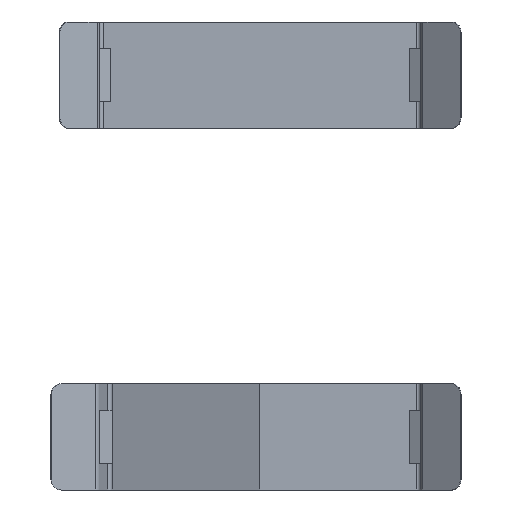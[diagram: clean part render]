
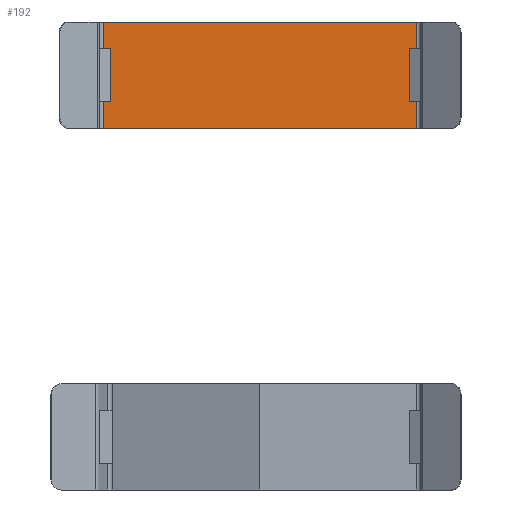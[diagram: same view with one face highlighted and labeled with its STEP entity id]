
A CAD part, front view. The second image highlights one B-rep face of the part: STEP entity #192.
In plain terms, the highlighted planar face has unit normal (0, -1, 0).
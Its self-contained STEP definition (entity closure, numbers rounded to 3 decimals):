
#192=ADVANCED_FACE('',(#340),#268,.T.);
#268=PLANE('',#1867);
#340=FACE_OUTER_BOUND('',#430,.T.);
#430=EDGE_LOOP('',(#734,#735,#736,#737));
#734=ORIENTED_EDGE('',*,*,#1270,.F.);
#735=ORIENTED_EDGE('',*,*,#1271,.T.);
#736=ORIENTED_EDGE('',*,*,#1272,.T.);
#737=ORIENTED_EDGE('',*,*,#1273,.F.);
#1062=VERTEX_POINT('',#2690);
#1063=VERTEX_POINT('',#2691);
#1064=VERTEX_POINT('',#2693);
#1065=VERTEX_POINT('',#2695);
#1270=EDGE_CURVE('',#1062,#1063,#1492,.T.);
#1271=EDGE_CURVE('',#1062,#1064,#1493,.T.);
#1272=EDGE_CURVE('',#1064,#1065,#1494,.T.);
#1273=EDGE_CURVE('',#1063,#1065,#1495,.T.);
#1492=LINE('',#2689,#1686);
#1493=LINE('',#2692,#1687);
#1494=LINE('',#2694,#1688);
#1495=LINE('',#2696,#1689);
#1686=VECTOR('',#2191,1.);
#1687=VECTOR('',#2192,1.);
#1688=VECTOR('',#2193,1.);
#1689=VECTOR('',#2194,1.);
#1867=AXIS2_PLACEMENT_3D('',#2697,#2195,#2196);
#2191=DIRECTION('',(1.,0.,0.));
#2192=DIRECTION('',(0.,0.,-1.));
#2193=DIRECTION('',(1.,0.,0.));
#2194=DIRECTION('',(0.,0.,-1.));
#2195=DIRECTION('',(0.,-1.,0.));
#2196=DIRECTION('',(0.,0.,-1.));
#2689=CARTESIAN_POINT('',(-81.,-0.15,1.));
#2690=CARTESIAN_POINT('',(-85.5,-0.15,1.));
#2691=CARTESIAN_POINT('',(-56.,-0.15,1.));
#2692=CARTESIAN_POINT('',(-85.5,-0.15,-9.));
#2693=CARTESIAN_POINT('',(-85.5,-0.15,-9.));
#2694=CARTESIAN_POINT('',(-81.,-0.15,-9.));
#2695=CARTESIAN_POINT('',(-56.,-0.15,-9.));
#2696=CARTESIAN_POINT('',(-56.,-0.15,-9.));
#2697=CARTESIAN_POINT('',(-81.,-0.15,-9.));
